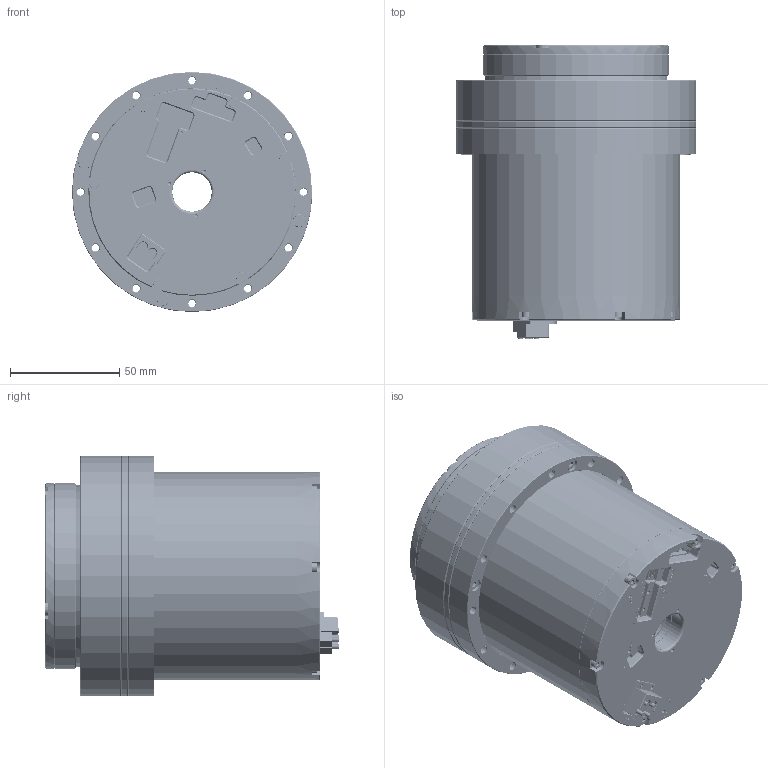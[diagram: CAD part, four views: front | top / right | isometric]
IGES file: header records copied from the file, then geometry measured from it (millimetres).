
Start section: SolidWorks IGES file using analytic representation for surfaces
Bounding box: 110 x 134.4 x 110 mm (x, y, z)
Surface area: 185794.5 mm2 (no closed solid volume)
Topology: 0 solids, 0 shells, 5129 faces, 65804 edges, 65700 vertices
Faces by surface type: bspline 3197, revolution 1932
